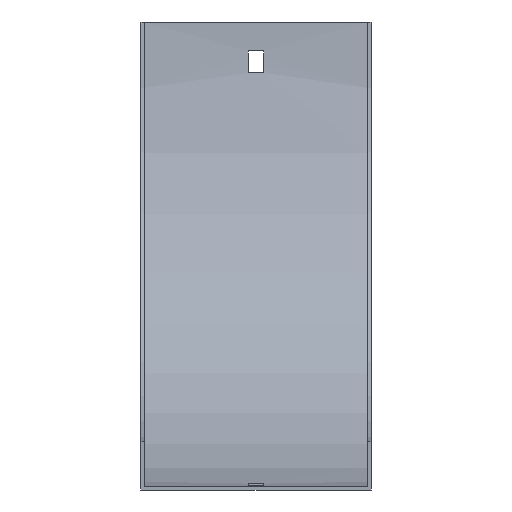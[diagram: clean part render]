
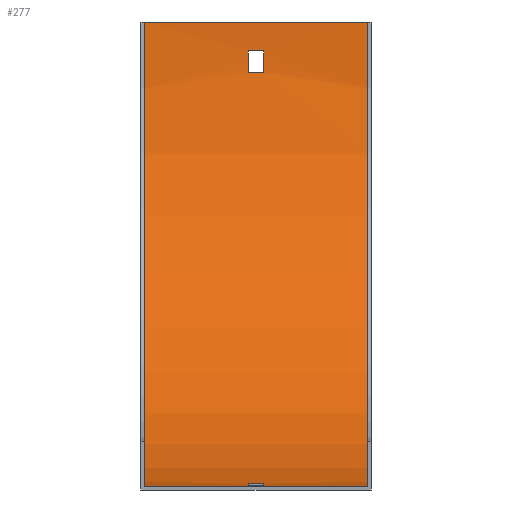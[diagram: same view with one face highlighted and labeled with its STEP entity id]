
A CAD part, front view. The second image highlights one B-rep face of the part: STEP entity #277.
In plain terms, the highlighted cylindrical face has radius 192.5 mm (diameter 385 mm), a partial arc.
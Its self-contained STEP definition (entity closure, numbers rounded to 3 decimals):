
#15 = EDGE_CURVE ( 'NONE', #561, #441, #405, .T. ) ;
#28 = CARTESIAN_POINT ( 'NONE',  ( -3.25, -1.874, -12. ) ) ;
#30 = AXIS2_PLACEMENT_3D ( 'NONE', #67, #152, #584 ) ;
#40 = CARTESIAN_POINT ( 'NONE',  ( -3.25, -194., 0. ) ) ;
#42 = VERTEX_POINT ( 'NONE', #328 ) ;
#51 = ORIENTED_EDGE ( 'NONE', *, *, #372, .F. ) ;
#54 = DIRECTION ( 'NONE',  ( 1., 0., 0. ) ) ;
#58 = ORIENTED_EDGE ( 'NONE', *, *, #376, .T. ) ;
#61 = EDGE_CURVE ( 'NONE', #222, #205, #78, .T. ) ;
#67 = CARTESIAN_POINT ( 'NONE',  ( 46.25, -194., 0. ) ) ;
#70 = CARTESIAN_POINT ( 'NONE',  ( 47.75, -2.649, -21. ) ) ;
#78 = CIRCLE ( 'NONE', #576, 192.5 ) ;
#86 = DIRECTION ( 'NONE',  ( 1., 0., 0. ) ) ;
#87 = ORIENTED_EDGE ( 'NONE', *, *, #318, .T. ) ;
#92 = EDGE_CURVE ( 'NONE', #179, #168, #435, .T. ) ;
#97 = ORIENTED_EDGE ( 'NONE', *, *, #343, .T. ) ;
#103 = CARTESIAN_POINT ( 'NONE',  ( 46.25, -1.5, 0. ) ) ;
#106 = CARTESIAN_POINT ( 'NONE',  ( 47.75, -1.874, -12. ) ) ;
#109 = CARTESIAN_POINT ( 'NONE',  ( -46.25, -1.5, 0. ) ) ;
#113 = DIRECTION ( 'NONE',  ( 1., 0., 0. ) ) ;
#119 = EDGE_CURVE ( 'NONE', #138, #179, #559, .T. ) ;
#120 = DIRECTION ( 'NONE',  ( 0., 0., 1. ) ) ;
#135 = EDGE_CURVE ( 'NONE', #138, #569, #519, .T. ) ;
#138 = VERTEX_POINT ( 'NONE', #443 ) ;
#142 = AXIS2_PLACEMENT_3D ( 'NONE', #386, #421, #525 ) ;
#143 = CARTESIAN_POINT ( 'NONE',  ( 47.75, -182., -192.126 ) ) ;
#148 = CARTESIAN_POINT ( 'NONE',  ( -3.25, -173., -191.351 ) ) ;
#152 = DIRECTION ( 'NONE',  ( 1., 0., 0. ) ) ;
#155 = CIRCLE ( 'NONE', #566, 192.5 ) ;
#156 = DIRECTION ( 'NONE',  ( -1., 0., 0. ) ) ;
#159 = CARTESIAN_POINT ( 'NONE',  ( 3.25, -173., -191.351 ) ) ;
#168 = VERTEX_POINT ( 'NONE', #109 ) ;
#173 = FACE_BOUND ( 'NONE', #202, .T. ) ;
#178 = CARTESIAN_POINT ( 'NONE',  ( -3.25, -2.649, -21. ) ) ;
#179 = VERTEX_POINT ( 'NONE', #530 ) ;
#183 = EDGE_CURVE ( 'NONE', #42, #254, #345, .T. ) ;
#186 = EDGE_CURVE ( 'NONE', #350, #496, #215, .T. ) ;
#202 = EDGE_LOOP ( 'NONE', ( #374, #483, #51, #460 ) ) ;
#205 = VERTEX_POINT ( 'NONE', #148 ) ;
#215 = LINE ( 'NONE', #70, #548 ) ;
#216 = ORIENTED_EDGE ( 'NONE', *, *, #119, .F. ) ;
#222 = VERTEX_POINT ( 'NONE', #308 ) ;
#226 = CIRCLE ( 'NONE', #422, 192.5 ) ;
#232 = DIRECTION ( 'NONE',  ( 0., 0., -1. ) ) ;
#234 = VECTOR ( 'NONE', #571, 1000. ) ;
#253 = EDGE_CURVE ( 'NONE', #254, #350, #155, .T. ) ;
#254 = VERTEX_POINT ( 'NONE', #28 ) ;
#271 = DIRECTION ( 'NONE',  ( -1., 0., 0. ) ) ;
#277 = ADVANCED_FACE ( 'NONE', ( #173, #320, #508 ), #455, .F. ) ;
#281 = EDGE_LOOP ( 'NONE', ( #58, #325, #97, #599 ) ) ;
#285 = CARTESIAN_POINT ( 'NONE',  ( 46.25, -1.5, 0. ) ) ;
#290 = LINE ( 'NONE', #143, #556 ) ;
#308 = CARTESIAN_POINT ( 'NONE',  ( -3.25, -182., -192.126 ) ) ;
#310 = CARTESIAN_POINT ( 'NONE',  ( 3.25, -194., 0. ) ) ;
#317 = AXIS2_PLACEMENT_3D ( 'NONE', #310, #401, #120 ) ;
#318 = EDGE_CURVE ( 'NONE', #569, #168, #589, .T. ) ;
#320 = FACE_OUTER_BOUND ( 'NONE', #334, .T. ) ;
#325 = ORIENTED_EDGE ( 'NONE', *, *, #61, .T. ) ;
#328 = CARTESIAN_POINT ( 'NONE',  ( 3.25, -1.874, -12. ) ) ;
#334 = EDGE_LOOP ( 'NONE', ( #465, #216, #528, #87 ) ) ;
#343 = EDGE_CURVE ( 'NONE', #205, #561, #558, .T. ) ;
#345 = LINE ( 'NONE', #106, #588 ) ;
#350 = VERTEX_POINT ( 'NONE', #178 ) ;
#364 = DIRECTION ( 'NONE',  ( -1., 0., 0. ) ) ;
#368 = CARTESIAN_POINT ( 'NONE',  ( 47.75, -173., -191.351 ) ) ;
#372 = EDGE_CURVE ( 'NONE', #496, #42, #226, .T. ) ;
#374 = ORIENTED_EDGE ( 'NONE', *, *, #253, .F. ) ;
#376 = EDGE_CURVE ( 'NONE', #441, #222, #290, .T. ) ;
#386 = CARTESIAN_POINT ( 'NONE',  ( -46.25, -194., 0. ) ) ;
#401 = DIRECTION ( 'NONE',  ( -1., 0., 0. ) ) ;
#405 = CIRCLE ( 'NONE', #317, 192.5 ) ;
#412 = AXIS2_PLACEMENT_3D ( 'NONE', #590, #364, #553 ) ;
#416 = CARTESIAN_POINT ( 'NONE',  ( 3.25, -194., 0. ) ) ;
#420 = DIRECTION ( 'NONE',  ( 1., 0., 0. ) ) ;
#421 = DIRECTION ( 'NONE',  ( 1., 0., 0. ) ) ;
#422 = AXIS2_PLACEMENT_3D ( 'NONE', #416, #86, #232 ) ;
#435 = CIRCLE ( 'NONE', #142, 192.5 ) ;
#441 = VERTEX_POINT ( 'NONE', #516 ) ;
#443 = CARTESIAN_POINT ( 'NONE',  ( 46.25, -194., -192.5 ) ) ;
#455 = CYLINDRICAL_SURFACE ( 'NONE', #412, 192.5 ) ;
#460 = ORIENTED_EDGE ( 'NONE', *, *, #186, .F. ) ;
#462 = DIRECTION ( 'NONE',  ( 0., 0., 1. ) ) ;
#463 = VECTOR ( 'NONE', #471, 1000. ) ;
#465 = ORIENTED_EDGE ( 'NONE', *, *, #92, .F. ) ;
#469 = DIRECTION ( 'NONE',  ( 0., 0., -1. ) ) ;
#471 = DIRECTION ( 'NONE',  ( -1., 0., 0. ) ) ;
#483 = ORIENTED_EDGE ( 'NONE', *, *, #183, .F. ) ;
#493 = VECTOR ( 'NONE', #420, 1000. ) ;
#496 = VERTEX_POINT ( 'NONE', #583 ) ;
#508 = FACE_BOUND ( 'NONE', #281, .T. ) ;
#516 = CARTESIAN_POINT ( 'NONE',  ( 3.25, -182., -192.126 ) ) ;
#519 = CIRCLE ( 'NONE', #30, 192.5 ) ;
#525 = DIRECTION ( 'NONE',  ( 0., 0., 1. ) ) ;
#528 = ORIENTED_EDGE ( 'NONE', *, *, #135, .T. ) ;
#530 = CARTESIAN_POINT ( 'NONE',  ( -46.25, -194., -192.5 ) ) ;
#548 = VECTOR ( 'NONE', #113, 1000. ) ;
#553 = DIRECTION ( 'NONE',  ( 0., 0., 1. ) ) ;
#556 = VECTOR ( 'NONE', #602, 1000. ) ;
#558 = LINE ( 'NONE', #368, #493 ) ;
#559 = LINE ( 'NONE', #604, #234 ) ;
#561 = VERTEX_POINT ( 'NONE', #159 ) ;
#566 = AXIS2_PLACEMENT_3D ( 'NONE', #595, #271, #462 ) ;
#569 = VERTEX_POINT ( 'NONE', #103 ) ;
#571 = DIRECTION ( 'NONE',  ( -1., 0., 0. ) ) ;
#576 = AXIS2_PLACEMENT_3D ( 'NONE', #40, #54, #469 ) ;
#583 = CARTESIAN_POINT ( 'NONE',  ( 3.25, -2.649, -21. ) ) ;
#584 = DIRECTION ( 'NONE',  ( 0., 0., 1. ) ) ;
#588 = VECTOR ( 'NONE', #156, 1000. ) ;
#589 = LINE ( 'NONE', #285, #463 ) ;
#590 = CARTESIAN_POINT ( 'NONE',  ( 47.75, -194., 0. ) ) ;
#595 = CARTESIAN_POINT ( 'NONE',  ( -3.25, -194., 0. ) ) ;
#599 = ORIENTED_EDGE ( 'NONE', *, *, #15, .T. ) ;
#602 = DIRECTION ( 'NONE',  ( -1., 0., 0. ) ) ;
#604 = CARTESIAN_POINT ( 'NONE',  ( 46.25, -194., -192.5 ) ) ;
